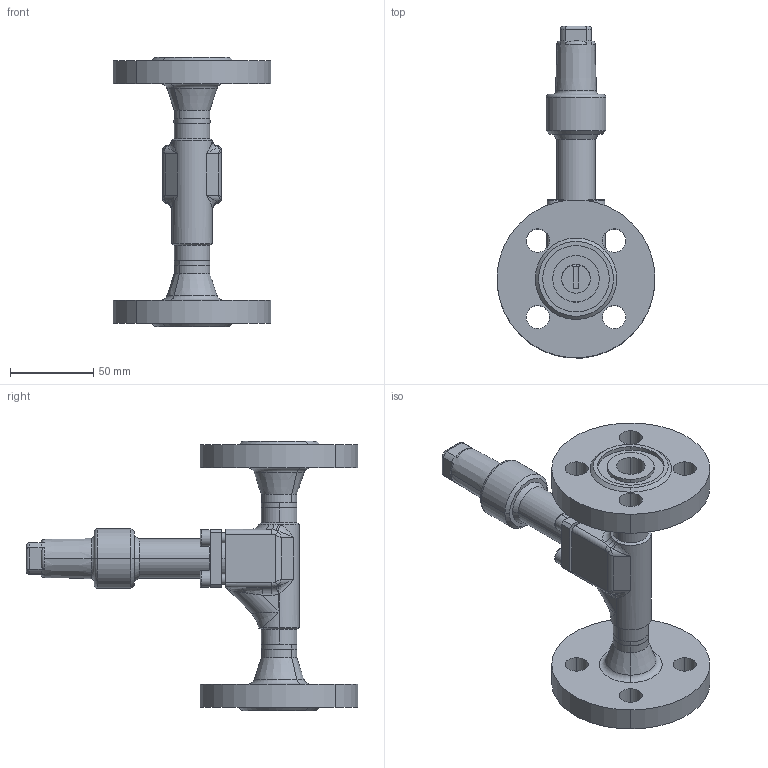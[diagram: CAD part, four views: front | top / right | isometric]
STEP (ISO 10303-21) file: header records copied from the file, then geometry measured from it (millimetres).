
FILE_DESCRIPTION (( 'STEP AP214' ), '1' );
FILE_NAME ('RVAK97320-DN015_DIN-FL-N_PS40.STEP', '2006-05-02T08:36:05', ( 'Herr Grams' ), ( 'AWP GmbH' ), 'SwSTEP 2.0', 'SolidWorks 2002296', '' );
FILE_SCHEMA (( 'AUTOMOTIVE_DESIGN' ));
Length unit declared in the file: millimetre
Products named in the file (10): RVAK97320-DN015_DIN-FL-N_PS40; Geh-kpl96320E10-DN15_PS40_DIN-FL_Standard; Gehäuse96300E10-DN15_PS40_R1_Standard; Flansch-DIN2635-Nut_PS40_DIN-Flansch-DN015_PS40-Nut; bead963-DN015-2_Standard; bead963-DN015-1_Standard; RVA99300E10_Deck+Schr-DN6-15_Standard; Deckel99300E10-DN6-15_PS40_Standard; Zylinderschraube-DIN912_M 6x 18; Kappe96300E10_DN6-20_Standard
Assembly tree (13 placements, depth 3):
  RVAK97320-DN015_DIN-FL-N_PS40
    RVA99300E10_Deck+Schr-DN6-15_Standard
      Deckel99300E10-DN6-15_PS40_Standard
      Zylinderschraube-DIN912_M 6x 18  x4
    Geh-kpl96320E10-DN15_PS40_DIN-FL_Standard
      Flansch-DIN2635-Nut_PS40_DIN-Flansch-DN015_PS40-Nut  x2
      bead963-DN015-1_Standard
      bead963-DN015-2_Standard
      Gehäuse96300E10-DN15_PS40_R1_Standard
    Kappe96300E10_DN6-20_Standard
Bounding box: 94.64 x 199.32 x 162 mm (x, y, z)
Volume: 304436.9 mm3; surface area: 85225.6 mm2
Topology: 11 solids, 11 shells, 340 faces, 785 edges, 481 vertices
Faces by surface type: cylinder 127, plane 99, cone 49, bspline 37, torus 28
Entity records: 21612 total; most frequent: CARTESIAN_POINT 15213, ORIENTED_EDGE 1182, DIRECTION 1164, EDGE_CURVE 591, AXIS2_PLACEMENT_3D 486, VERTEX_POINT 363, EDGE_LOOP 292, ADVANCED_FACE 254
